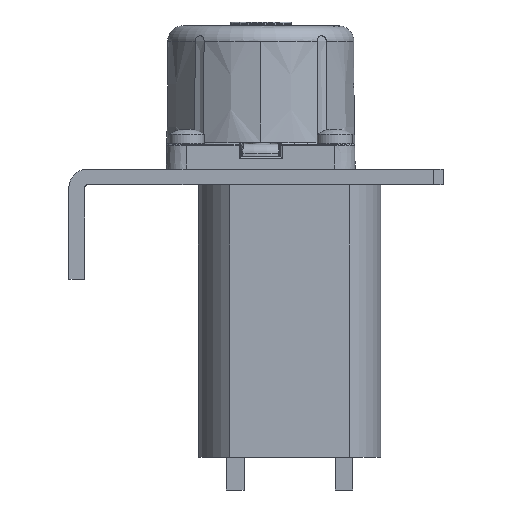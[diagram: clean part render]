
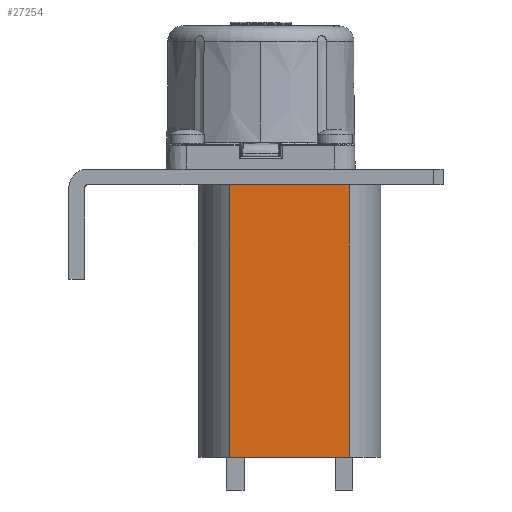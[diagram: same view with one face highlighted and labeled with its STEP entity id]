
A CAD part, front view. The second image highlights one B-rep face of the part: STEP entity #27254.
In plain terms, the highlighted planar face has unit normal (0, -1, 0).
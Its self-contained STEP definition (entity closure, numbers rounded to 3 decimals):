
#648 = CARTESIAN_POINT ( 'NONE',  ( 0., -31.743, 43.3 ) ) ;
#1577 = EDGE_LOOP ( 'NONE', ( #14803, #15373, #3512, #16827 ) ) ;
#1932 = CARTESIAN_POINT ( 'NONE',  ( 17.486, -31.743, 0. ) ) ;
#2679 = FACE_OUTER_BOUND ( 'NONE', #1577, .T. ) ;
#2833 = VERTEX_POINT ( 'NONE', #16761 ) ;
#3512 = ORIENTED_EDGE ( 'NONE', *, *, #24766, .T. ) ;
#3542 = VERTEX_POINT ( 'NONE', #1932 ) ;
#4323 = CARTESIAN_POINT ( 'NONE',  ( 22.486, -31.743, 0. ) ) ;
#4707 = PLANE ( 'NONE',  #25408 ) ;
#4725 = DIRECTION ( 'NONE',  ( 1., 0., 0. ) ) ;
#5685 = VERTEX_POINT ( 'NONE', #22127 ) ;
#5791 = VECTOR ( 'NONE', #23079, 1000. ) ;
#8496 = VECTOR ( 'NONE', #4725, 1000. ) ;
#9862 = LINE ( 'NONE', #15766, #5791 ) ;
#12581 = DIRECTION ( 'NONE',  ( 1., 0., 0. ) ) ;
#13243 = EDGE_CURVE ( 'NONE', #18875, #3542, #27413, .T. ) ;
#14100 = EDGE_CURVE ( 'NONE', #5685, #18875, #9862, .T. ) ;
#14803 = ORIENTED_EDGE ( 'NONE', *, *, #14100, .T. ) ;
#15339 = DIRECTION ( 'NONE',  ( 0., 0., 1. ) ) ;
#15373 = ORIENTED_EDGE ( 'NONE', *, *, #13243, .T. ) ;
#15666 = VECTOR ( 'NONE', #15339, 1000. ) ;
#15766 = CARTESIAN_POINT ( 'NONE',  ( -1.514, -31.743, 0. ) ) ;
#16761 = CARTESIAN_POINT ( 'NONE',  ( 17.486, -31.743, 43.3 ) ) ;
#16827 = ORIENTED_EDGE ( 'NONE', *, *, #24916, .F. ) ;
#18875 = VERTEX_POINT ( 'NONE', #22430 ) ;
#19509 = DIRECTION ( 'NONE',  ( 0., 0., -1. ) ) ;
#21405 = LINE ( 'NONE', #648, #8496 ) ;
#21671 = VECTOR ( 'NONE', #12581, 1000. ) ;
#22084 = DIRECTION ( 'NONE',  ( 0., -1., 0. ) ) ;
#22127 = CARTESIAN_POINT ( 'NONE',  ( -1.514, -31.743, 43.3 ) ) ;
#22430 = CARTESIAN_POINT ( 'NONE',  ( -1.514, -31.743, 0. ) ) ;
#23079 = DIRECTION ( 'NONE',  ( 0., 0., -1. ) ) ;
#23128 = CARTESIAN_POINT ( 'NONE',  ( 17.486, -31.743, 0. ) ) ;
#23500 = CARTESIAN_POINT ( 'NONE',  ( 22.486, -31.743, 0. ) ) ;
#24766 = EDGE_CURVE ( 'NONE', #3542, #2833, #24813, .T. ) ;
#24813 = LINE ( 'NONE', #23128, #15666 ) ;
#24916 = EDGE_CURVE ( 'NONE', #5685, #2833, #21405, .T. ) ;
#25408 = AXIS2_PLACEMENT_3D ( 'NONE', #4323, #22084, #19509 ) ;
#27254 = ADVANCED_FACE ( 'NONE', ( #2679 ), #4707, .T. ) ;
#27413 = LINE ( 'NONE', #23500, #21671 ) ;
